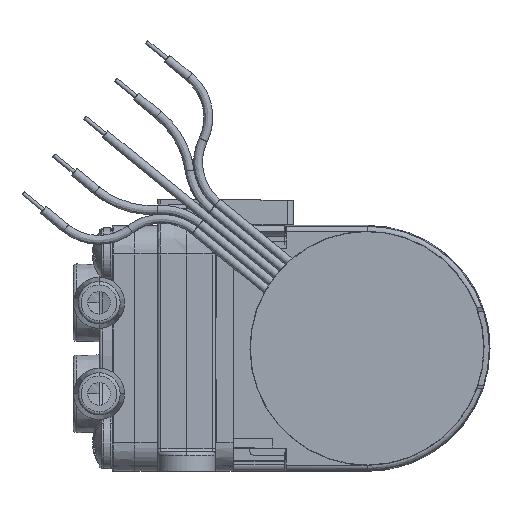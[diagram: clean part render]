
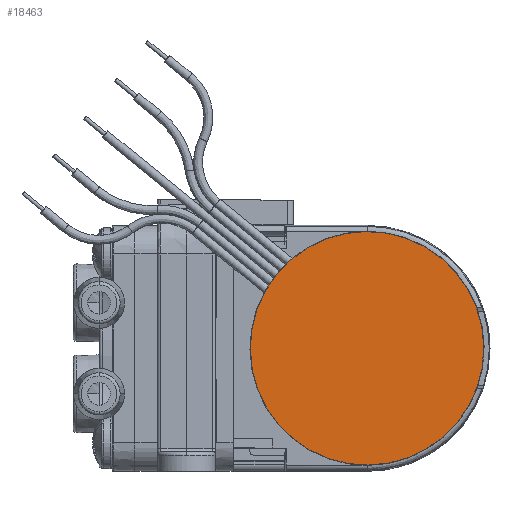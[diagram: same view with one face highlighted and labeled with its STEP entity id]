
A CAD part, front view. The second image highlights one B-rep face of the part: STEP entity #18463.
In plain terms, the highlighted planar face has unit normal (0, -1, 0).
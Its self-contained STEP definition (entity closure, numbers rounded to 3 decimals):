
#413 = CIRCLE ( 'NONE', #13566, 17.95 ) ;
#3177 = CARTESIAN_POINT ( 'NONE',  ( 13.859, -47.5, 13.899 ) ) ;
#3234 = PLANE ( 'NONE',  #15157 ) ;
#4253 = CIRCLE ( 'NONE', #10647, 17.95 ) ;
#4983 = EDGE_LOOP ( 'NONE', ( #17143, #8112 ) ) ;
#5225 = DIRECTION ( 'NONE',  ( -0.633, 0., -0.774 ) ) ;
#5340 = DIRECTION ( 'NONE',  ( 0., 1., 0. ) ) ;
#5342 = DIRECTION ( 'NONE',  ( 0., 1., 0. ) ) ;
#6743 = VERTEX_POINT ( 'NONE', #3177 ) ;
#6757 = CARTESIAN_POINT ( 'NONE',  ( 13.859, -47.5, 13.899 ) ) ;
#7118 = DIRECTION ( 'NONE',  ( -0.633, 0., -0.774 ) ) ;
#8112 = ORIENTED_EDGE ( 'NONE', *, *, #15624, .F. ) ;
#10213 = DIRECTION ( 'NONE',  ( -0.633, 0., -0.774 ) ) ;
#10647 = AXIS2_PLACEMENT_3D ( 'NONE', #10980, #5342, #7118 ) ;
#10980 = CARTESIAN_POINT ( 'NONE',  ( 2.5, -47.5, 0. ) ) ;
#11527 = CARTESIAN_POINT ( 'NONE',  ( 2.5, -47.5, 0. ) ) ;
#12127 = EDGE_CURVE ( 'NONE', #15475, #6743, #413, .T. ) ;
#12300 = FACE_OUTER_BOUND ( 'NONE', #4983, .T. ) ;
#13566 = AXIS2_PLACEMENT_3D ( 'NONE', #11527, #15417, #10213 ) ;
#15157 = AXIS2_PLACEMENT_3D ( 'NONE', #6757, #5340, #5225 ) ;
#15417 = DIRECTION ( 'NONE',  ( 0., 1., 0. ) ) ;
#15475 = VERTEX_POINT ( 'NONE', #20884 ) ;
#15624 = EDGE_CURVE ( 'NONE', #6743, #15475, #4253, .T. ) ;
#17143 = ORIENTED_EDGE ( 'NONE', *, *, #12127, .F. ) ;
#18463 = ADVANCED_FACE ( 'NONE', ( #12300 ), #3234, .F. ) ;
#20884 = CARTESIAN_POINT ( 'NONE',  ( -8.859, -47.5, -13.899 ) ) ;
